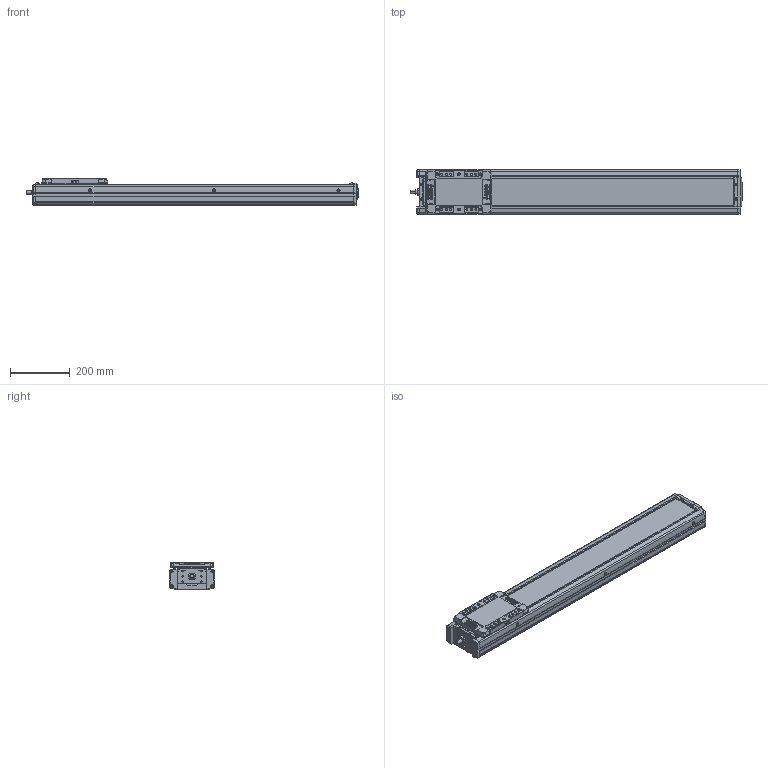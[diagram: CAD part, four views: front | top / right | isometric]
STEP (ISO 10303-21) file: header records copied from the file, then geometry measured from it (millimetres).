
FILE_DESCRIPTION(('STEP AP214'),'1');
FILE_NAME('Z:/Web/3D/SAN150/2013.04 (STP.)/SAN150ㅁㅁ-800.stp','2013-05-07T10:58:08',(' '),(' '),'Spatial InterOp 3D',' ',' ');
FILE_SCHEMA(('automotive_design'));
Length unit declared in the file: millimetre
Products named in the file (37): SLBL-SAN150; SLCV-SAN150; FHCS M4.0 x 8.0; BHCS M4.0 x 10.0; SFX-SAN150; RRCV-SAN150; FRBL-SAN150; Spacer; RN15; FRCV-SAN150; Screw 20; BASE-SAN150-000L ; SUS COVER; 스크루 : Round - M5.0 x 6.0
Bounding box: 1108 x 150 x 90 mm (x, y, z)
Volume: 5930944.5 mm3; surface area: 1098331.1 mm2
Topology: 37 solids, 37 shells, 2129 faces, 5486 edges, 3495 vertices
Faces by surface type: plane 1013, cylinder 769, cone 262, sphere 52, bspline 21, torus 12
Entity records: 84783 total; most frequent: CARTESIAN_POINT 14109, DIRECTION 11606, ORIENTED_EDGE 10740, EDGE_CURVE 5370, AXIS2_PLACEMENT_3D 4187, VERTEX_POINT 3495, LINE 3232, VECTOR 3232
